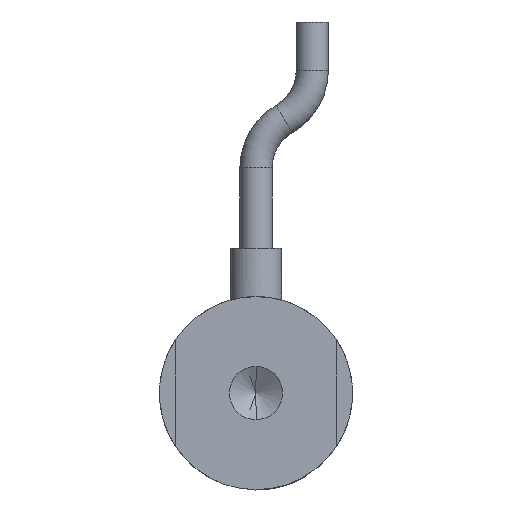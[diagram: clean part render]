
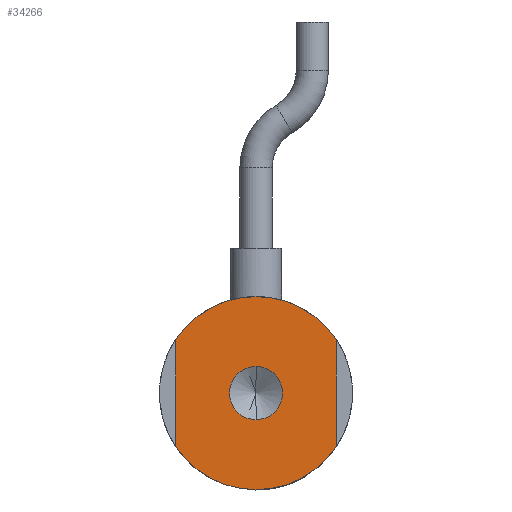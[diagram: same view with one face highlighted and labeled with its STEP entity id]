
A CAD part, front view. The second image highlights one B-rep face of the part: STEP entity #34266.
In plain terms, the highlighted planar face has unit normal (0, -1, 0).
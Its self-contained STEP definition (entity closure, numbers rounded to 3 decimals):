
#1944 = CARTESIAN_POINT ( 'NONE',  ( 0., 0., 0. ) ) ;
#2482 = VERTEX_POINT ( 'NONE', #30287 ) ;
#2586 = PLANE ( 'NONE',  #28578 ) ;
#3685 = AXIS2_PLACEMENT_3D ( 'NONE', #20545, #20448, #20384 ) ;
#3843 = VERTEX_POINT ( 'NONE', #30589 ) ;
#3850 = EDGE_LOOP ( 'NONE', ( #24077, #16773, #16222, #14189, #25430, #24901 ) ) ;
#4459 = DIRECTION ( 'NONE',  ( 0., 0., -1. ) ) ;
#4663 = CARTESIAN_POINT ( 'NONE',  ( 5., 0., 0. ) ) ;
#4802 = AXIS2_PLACEMENT_3D ( 'NONE', #12906, #37595, #16531 ) ;
#5506 = DIRECTION ( 'NONE',  ( 0., 0., 1. ) ) ;
#5873 = EDGE_CURVE ( 'NONE', #6057, #21163, #14144, .T. ) ;
#5939 = EDGE_CURVE ( 'NONE', #32639, #2482, #39939, .T. ) ;
#5993 = CARTESIAN_POINT ( 'NONE',  ( 0., 0., 6. ) ) ;
#6057 = VERTEX_POINT ( 'NONE', #14580 ) ;
#6142 = DIRECTION ( 'NONE',  ( 0., 0., 1. ) ) ;
#6426 = AXIS2_PLACEMENT_3D ( 'NONE', #14145, #38742, #17781 ) ;
#6469 = EDGE_CURVE ( 'NONE', #12338, #39462, #19238, .T. ) ;
#7888 = ORIENTED_EDGE ( 'NONE', *, *, #5873, .F. ) ;
#10090 = ORIENTED_EDGE ( 'NONE', *, *, #19344, .F. ) ;
#11294 = CARTESIAN_POINT ( 'NONE',  ( 5., 0., 3.317 ) ) ;
#11409 = CIRCLE ( 'NONE', #30324, 6. ) ;
#12338 = VERTEX_POINT ( 'NONE', #11294 ) ;
#12906 = CARTESIAN_POINT ( 'NONE',  ( 0., 0., 0. ) ) ;
#13688 = CARTESIAN_POINT ( 'NONE',  ( 5., 0., -3.317 ) ) ;
#14056 = CARTESIAN_POINT ( 'NONE',  ( 0., 0., 0. ) ) ;
#14144 = CIRCLE ( 'NONE', #3685, 1.65 ) ;
#14145 = CARTESIAN_POINT ( 'NONE',  ( 0., 0., 0. ) ) ;
#14189 = ORIENTED_EDGE ( 'NONE', *, *, #6469, .F. ) ;
#14580 = CARTESIAN_POINT ( 'NONE',  ( 0., 0., -1.65 ) ) ;
#16222 = ORIENTED_EDGE ( 'NONE', *, *, #33380, .F. ) ;
#16335 = DIRECTION ( 'NONE',  ( 0., 1., 0. ) ) ;
#16460 = FACE_OUTER_BOUND ( 'NONE', #3850, .T. ) ;
#16531 = DIRECTION ( 'NONE',  ( 0., 0., 1. ) ) ;
#16773 = ORIENTED_EDGE ( 'NONE', *, *, #19481, .F. ) ;
#17686 = DIRECTION ( 'NONE',  ( 0., 0., -1. ) ) ;
#17781 = DIRECTION ( 'NONE',  ( 0., 0., 1. ) ) ;
#18239 = DIRECTION ( 'NONE',  ( 0., 0., 1. ) ) ;
#18443 = CARTESIAN_POINT ( 'NONE',  ( -5., 0., 0. ) ) ;
#19238 = LINE ( 'NONE', #4663, #44808 ) ;
#19344 = EDGE_CURVE ( 'NONE', #21163, #6057, #38042, .T. ) ;
#19481 = EDGE_CURVE ( 'NONE', #3843, #32639, #45005, .T. ) ;
#19813 = DIRECTION ( 'NONE',  ( 0., 1., 0. ) ) ;
#20327 = CARTESIAN_POINT ( 'NONE',  ( 0., 0., 0. ) ) ;
#20384 = DIRECTION ( 'NONE',  ( 0., 0., -1. ) ) ;
#20448 = DIRECTION ( 'NONE',  ( 0., -1., 0. ) ) ;
#20545 = CARTESIAN_POINT ( 'NONE',  ( 0., 0., 0. ) ) ;
#20785 = AXIS2_PLACEMENT_3D ( 'NONE', #1944, #26772, #5506 ) ;
#21163 = VERTEX_POINT ( 'NONE', #34083 ) ;
#21496 = VECTOR ( 'NONE', #18239, 1000. ) ;
#23141 = EDGE_LOOP ( 'NONE', ( #7888, #10090 ) ) ;
#24077 = ORIENTED_EDGE ( 'NONE', *, *, #5939, .F. ) ;
#24775 = CIRCLE ( 'NONE', #6426, 6. ) ;
#24901 = ORIENTED_EDGE ( 'NONE', *, *, #25434, .F. ) ;
#25430 = ORIENTED_EDGE ( 'NONE', *, *, #25743, .F. ) ;
#25434 = EDGE_CURVE ( 'NONE', #2482, #26538, #24775, .T. ) ;
#25743 = EDGE_CURVE ( 'NONE', #26538, #12338, #40978, .T. ) ;
#25952 = FACE_BOUND ( 'NONE', #23141, .T. ) ;
#26538 = VERTEX_POINT ( 'NONE', #5993 ) ;
#26772 = DIRECTION ( 'NONE',  ( 0., 1., 0. ) ) ;
#28578 = AXIS2_PLACEMENT_3D ( 'NONE', #20327, #16335, #6142 ) ;
#30287 = CARTESIAN_POINT ( 'NONE',  ( -5., 0., 3.317 ) ) ;
#30324 = AXIS2_PLACEMENT_3D ( 'NONE', #40620, #19813, #44133 ) ;
#30589 = CARTESIAN_POINT ( 'NONE',  ( 0., 0., -6. ) ) ;
#32639 = VERTEX_POINT ( 'NONE', #38531 ) ;
#33380 = EDGE_CURVE ( 'NONE', #39462, #3843, #11409, .T. ) ;
#34083 = CARTESIAN_POINT ( 'NONE',  ( 0., 0., 1.65 ) ) ;
#34084 = AXIS2_PLACEMENT_3D ( 'NONE', #14056, #38664, #17686 ) ;
#34266 = ADVANCED_FACE ( 'NONE', ( #25952, #16460 ), #2586, .F. ) ;
#37595 = DIRECTION ( 'NONE',  ( 0., 1., 0. ) ) ;
#38042 = CIRCLE ( 'NONE', #34084, 1.65 ) ;
#38531 = CARTESIAN_POINT ( 'NONE',  ( -5., 0., -3.317 ) ) ;
#38664 = DIRECTION ( 'NONE',  ( 0., -1., 0. ) ) ;
#38742 = DIRECTION ( 'NONE',  ( 0., 1., 0. ) ) ;
#39462 = VERTEX_POINT ( 'NONE', #13688 ) ;
#39939 = LINE ( 'NONE', #18443, #21496 ) ;
#40620 = CARTESIAN_POINT ( 'NONE',  ( 0., 0., 0. ) ) ;
#40978 = CIRCLE ( 'NONE', #20785, 6. ) ;
#44133 = DIRECTION ( 'NONE',  ( 0., 0., 1. ) ) ;
#44808 = VECTOR ( 'NONE', #4459, 1000. ) ;
#45005 = CIRCLE ( 'NONE', #4802, 6. ) ;
